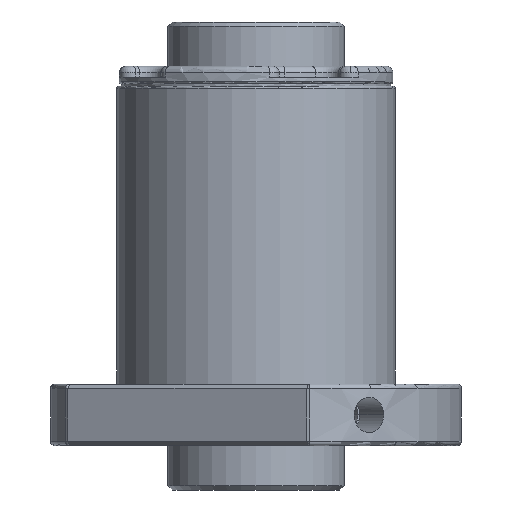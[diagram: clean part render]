
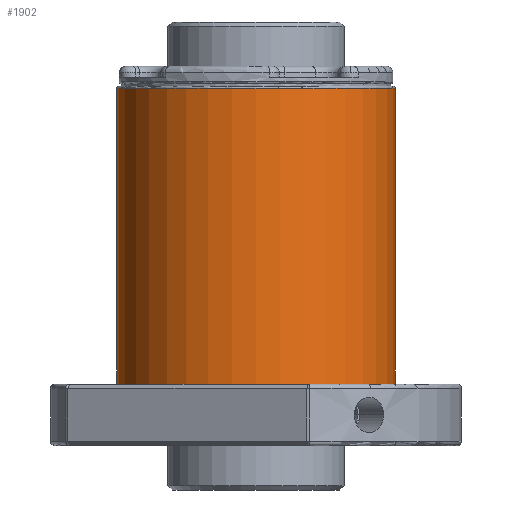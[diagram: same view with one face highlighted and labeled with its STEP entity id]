
A CAD part, front view. The second image highlights one B-rep face of the part: STEP entity #1902.
In plain terms, the highlighted cylindrical face has radius 31.5 mm (diameter 63 mm), a partial arc.
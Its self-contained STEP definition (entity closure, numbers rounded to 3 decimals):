
#145 = LINE ( 'NONE', #14299, #12589 ) ;
#210 = VERTEX_POINT ( 'NONE', #3505 ) ;
#410 = ORIENTED_EDGE ( 'NONE', *, *, #8323, .T. ) ;
#914 = DIRECTION ( 'NONE',  ( 0., 0., -1. ) ) ;
#955 = DIRECTION ( 'NONE',  ( 0., 0., 1. ) ) ;
#1147 = DIRECTION ( 'NONE',  ( -1., 0., 0. ) ) ;
#1555 = CARTESIAN_POINT ( 'NONE',  ( 31.5, 0., 81.5 ) ) ;
#1780 = VERTEX_POINT ( 'NONE', #2051 ) ;
#1902 = ADVANCED_FACE ( 'NONE', ( #7056 ), #13455, .T. ) ;
#2051 = CARTESIAN_POINT ( 'NONE',  ( 31.5, 0., 14. ) ) ;
#2954 = AXIS2_PLACEMENT_3D ( 'NONE', #4372, #914, #8073 ) ;
#3505 = CARTESIAN_POINT ( 'NONE',  ( -31.5, 0., 81. ) ) ;
#3526 = DIRECTION ( 'NONE',  ( 0., 0., -1. ) ) ;
#4245 = CARTESIAN_POINT ( 'NONE',  ( -31.5, 0., 14. ) ) ;
#4372 = CARTESIAN_POINT ( 'NONE',  ( 0., 0., 81. ) ) ;
#5116 = AXIS2_PLACEMENT_3D ( 'NONE', #13068, #11688, #1147 ) ;
#5261 = ORIENTED_EDGE ( 'NONE', *, *, #5976, .T. ) ;
#5976 = EDGE_CURVE ( 'NONE', #13609, #1780, #12376, .T. ) ;
#6260 = CIRCLE ( 'NONE', #2954, 31.5 ) ;
#6985 = VECTOR ( 'NONE', #9990, 1000. ) ;
#7056 = FACE_OUTER_BOUND ( 'NONE', #10082, .T. ) ;
#8073 = DIRECTION ( 'NONE',  ( -1., 0., 0. ) ) ;
#8323 = EDGE_CURVE ( 'NONE', #8736, #210, #6260, .T. ) ;
#8736 = VERTEX_POINT ( 'NONE', #11324 ) ;
#9243 = LINE ( 'NONE', #1555, #6985 ) ;
#9990 = DIRECTION ( 'NONE',  ( 0., 0., -1. ) ) ;
#10082 = EDGE_LOOP ( 'NONE', ( #12640, #410, #15498, #5261 ) ) ;
#10170 = EDGE_CURVE ( 'NONE', #8736, #1780, #9243, .T. ) ;
#10665 = CARTESIAN_POINT ( 'NONE',  ( 0., 0., 14. ) ) ;
#11324 = CARTESIAN_POINT ( 'NONE',  ( 31.5, 0., 81. ) ) ;
#11642 = DIRECTION ( 'NONE',  ( -1., 0., 0. ) ) ;
#11688 = DIRECTION ( 'NONE',  ( 0., 0., -1. ) ) ;
#12376 = CIRCLE ( 'NONE', #15074, 31.5 ) ;
#12589 = VECTOR ( 'NONE', #3526, 1000. ) ;
#12640 = ORIENTED_EDGE ( 'NONE', *, *, #10170, .F. ) ;
#13068 = CARTESIAN_POINT ( 'NONE',  ( 0., 0., 81.5 ) ) ;
#13455 = CYLINDRICAL_SURFACE ( 'NONE', #5116, 31.5 ) ;
#13609 = VERTEX_POINT ( 'NONE', #4245 ) ;
#14270 = EDGE_CURVE ( 'NONE', #210, #13609, #145, .T. ) ;
#14299 = CARTESIAN_POINT ( 'NONE',  ( -31.5, 0., 81.5 ) ) ;
#15074 = AXIS2_PLACEMENT_3D ( 'NONE', #10665, #955, #11642 ) ;
#15498 = ORIENTED_EDGE ( 'NONE', *, *, #14270, .T. ) ;
